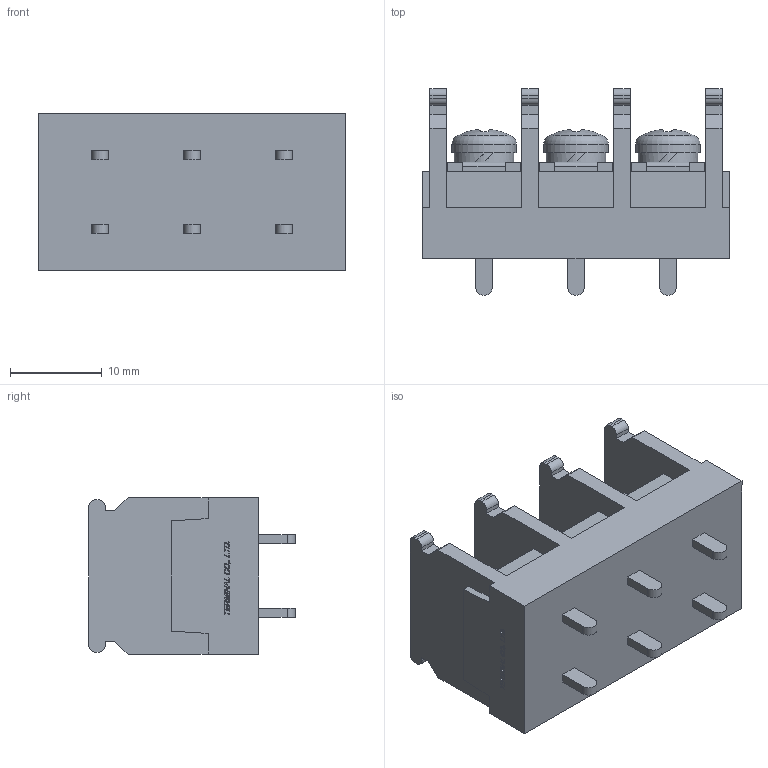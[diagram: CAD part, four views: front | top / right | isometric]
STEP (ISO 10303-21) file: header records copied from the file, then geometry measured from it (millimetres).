
FILE_DESCRIPTION(/* description */ ('Alibre Inc.'),/* implementation_level */ '2;1');
FILE_NAME(/* name */ 'export0',/* time_stamp */ '2015-10-17T15:29:57+09:00',/* author */ (''),/* organization */ (''),/* preprocessor_version */ 'ST-DEVELOPER v14',/* originating_system */ 'Alibre',/* authorisation */ '');
FILE_SCHEMA (('CONFIG_CONTROL_DESIGN'));
Length unit declared in the file: centimetre
Products named in the file (1): ID_1
Bounding box: 33.4 x 22.5 x 17 mm (x, y, z)
Volume: 6485.3 mm3; surface area: 4105.8 mm2
Topology: 1 solids, 17 shells, 624 faces, 1665 edges, 1107 vertices
Faces by surface type: plane 462, bspline 104, cylinder 37, cone 12, torus 6, sphere 3
Full cylindrical faces by diameter (mm): 4 x3, 6.5 x3, 7 x3
Entity records: 18806 total; most frequent: CARTESIAN_POINT 4379, ORIENTED_EDGE 3288, DIRECTION 2134, EDGE_CURVE 1644, VECTOR 1250, LINE 1250, VERTEX_POINT 1098, EDGE_LOOP 682
